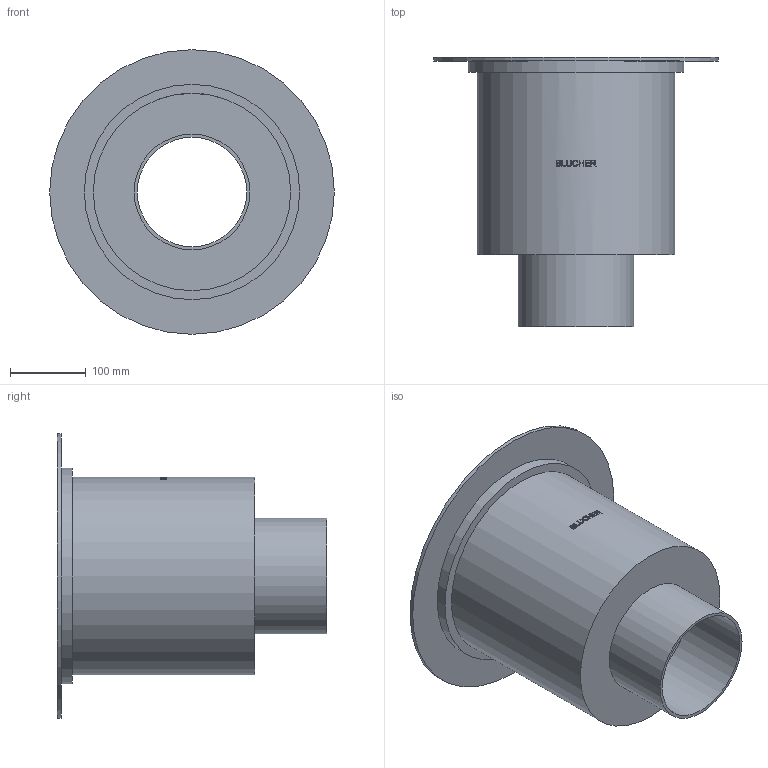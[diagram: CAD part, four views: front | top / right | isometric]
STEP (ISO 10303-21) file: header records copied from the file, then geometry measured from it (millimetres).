
FILE_DESCRIPTION((''),'2;1');
FILE_NAME('C:\Drawings\3D_CAD_Models\Blucher\BFD_Floor Drains_Complete_091119\BFD-500\WebsiteFiles\3D\STEP\BFD-536.stp','2009-11-30T09:05:27',('hofmansp'),(''),'Autodesk Inventor 2010','Autodesk Inventor 2010','');
FILE_SCHEMA(('AUTOMOTIVE_DESIGN { 1 0 10303 214 1 1 1 1 }'));
Length unit declared in the file: inch
Products named in the file (1): BFD-536
Bounding box: 375 x 355 x 375 mm (x, y, z)
Volume: 1043049.8 mm3; surface area: 702821.1 mm2
Topology: 1 solids, 1 shells, 116 faces, 291 edges, 194 vertices
Faces by surface type: plane 63, bspline 34, cylinder 19
Full cylindrical faces by diameter (mm): 144.4 x1, 152.4 x1, 256 x1, 260 x1, 274.25 x1, 283.7 x1, 332 x1, 333 x1, 375 x1
Entity records: 14237 total; most frequent: CARTESIAN_POINT 11723, ORIENTED_EDGE 564, DIRECTION 388, EDGE_CURVE 282, VERTEX_POINT 194, EDGE_LOOP 144, AXIS2_PLACEMENT_3D 136, FACE_OUTER_BOUND 116
